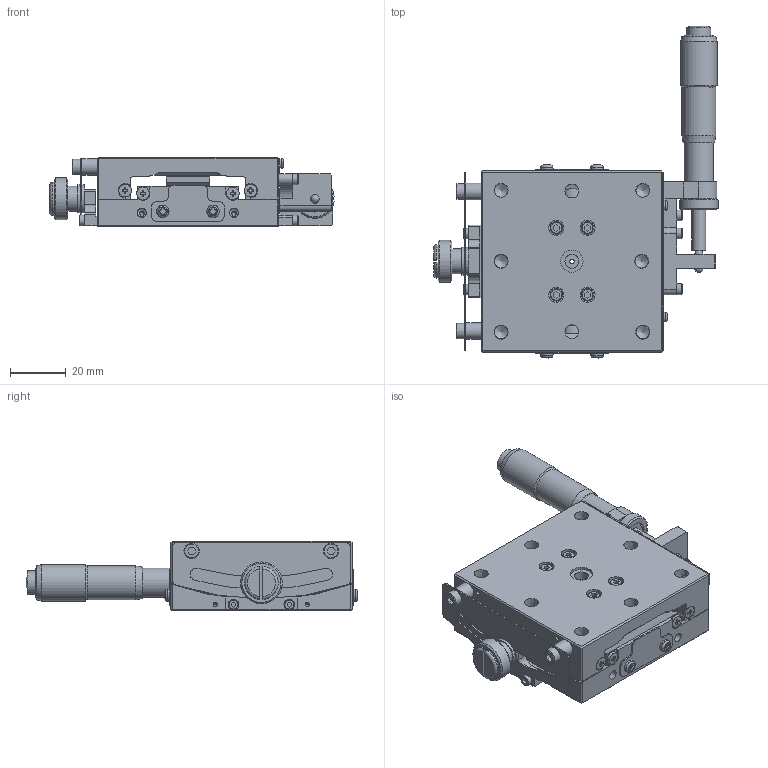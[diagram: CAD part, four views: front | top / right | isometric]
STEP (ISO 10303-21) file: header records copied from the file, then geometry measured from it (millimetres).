
FILE_DESCRIPTION((''),'2;1');
FILE_NAME('Y:\3DDATA\2_OpticalHard\02_海外製品\1_Stags\GOHT\□65ﾏｲｸﾛ式\GOHT-65A75BSUU\GOHT-65A75BSUU.stp','2014-04-09T17:44:25',('usernoto011'),(''),'Autodesk Inventor 2008','Autodesk Inventor 2008','');
FILE_SCHEMA(('AUTOMOTIVE_DESIGN { 1 0 10303 214 1 1 1 1 }'));
Length unit declared in the file: millimetre
Products named in the file (3): GOHT65A75BSUU-M02-08001-S11; GOHT65A75BSUU-M02-08001-S10; GOHT65A75BSUU-M02-08001-S09
Assembly tree (2 placements, depth 2):
  GOHT65A75BSUU-M02-08001-S11
    GOHT65A75BSUU-M02-08001-S10
    GOHT65A75BSUU-M02-08001-S09
Bounding box: 101.93 x 119 x 25 mm (x, y, z)
Volume: 88146.3 mm3; surface area: 46742.6 mm2
Topology: 4 solids, 46 shells, 1077 faces, 2712 edges, 1774 vertices
Faces by surface type: plane 588, bspline 212, cylinder 179, cone 67, sphere 19, torus 12
Full cylindrical faces by diameter (mm): 1.5 x8, 1.6 x1, 2 x8, 2.5 x8, 3 x3, 3.1 x2, 3.8 x6, 4 x2, 4.5 x12, 4.6 x1, 5 x2, 5.2 x1, 5.5 x2, 6 x3, 7 x4, 7.3 x2, 7.5 x1, 8 x3, 8.5 x2, 9 x1, 9.3 x1, 9.9 x1, 10 x2, 10.5 x1, 12 x4, 12.1 x1, 13.1 x1, 15 x1
Entity records: 34490 total; most frequent: CARTESIAN_POINT 11451, DIRECTION 4581, ORIENTED_EDGE 4358, EDGE_CURVE 2179, AXIS2_PLACEMENT_3D 1701, EDGE_LOOP 1580, VERTEX_POINT 1575, VECTOR 1179
